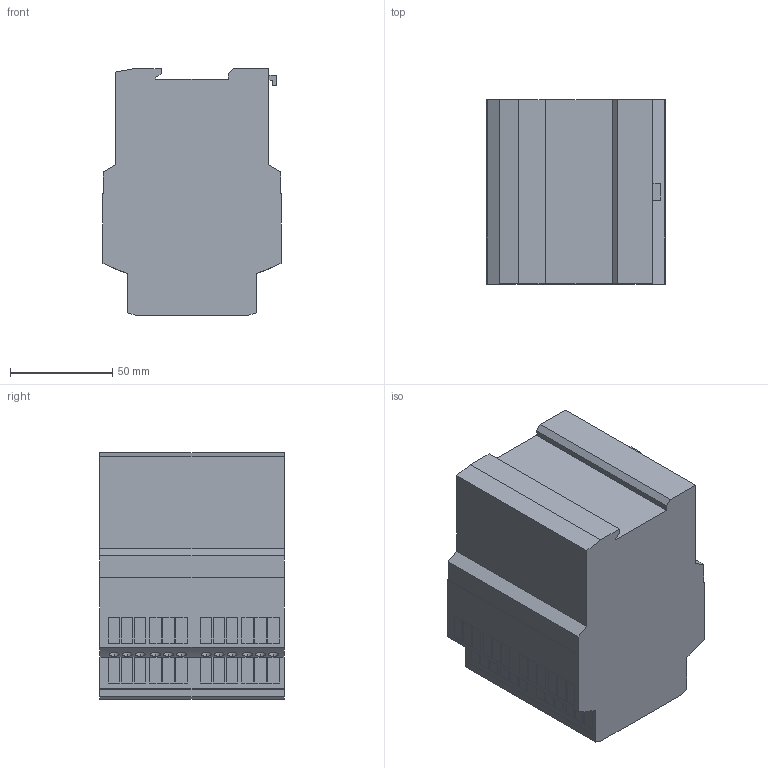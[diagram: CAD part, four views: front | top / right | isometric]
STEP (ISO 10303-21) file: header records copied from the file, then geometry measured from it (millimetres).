
FILE_DESCRIPTION((''),'2;1');
FILE_NAME('2008117','2010-11-16T',('merz'),(''),'PRO/ENGINEER BY PARAMETRIC TECHNOLOGY CORPORATION, 2009380','PRO/ENGINEER BY PARAMETRIC TECHNOLOGY CORPORATION, 2009380','');
FILE_SCHEMA(('AUTOMOTIVE_DESIGN_CC2 { 1 2 10303 214 -1 1 5 2 }'));
Length unit declared in the file: millimetre
Products named in the file (1): 2008117
Bounding box: 87 x 90 x 120.6 mm (x, y, z)
Volume: 823766.3 mm3; surface area: 56468.1 mm2
Topology: 1 solids, 1 shells, 458 faces, 1141 edges, 818 vertices
Faces by surface type: plane 356, cylinder 102
Entity records: 17371 total; most frequent: CARTESIAN_POINT 2932, ORIENTED_EDGE 2172, DIRECTION 2167, PRESENTATION_STYLE_ASSIGNMENT 1147, STYLED_ITEM 1142, CURVE_STYLE 1141, EDGE_CURVE 1086, VECTOR 937
